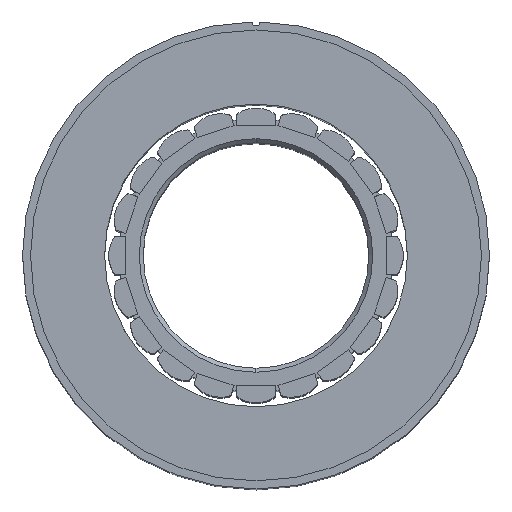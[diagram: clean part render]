
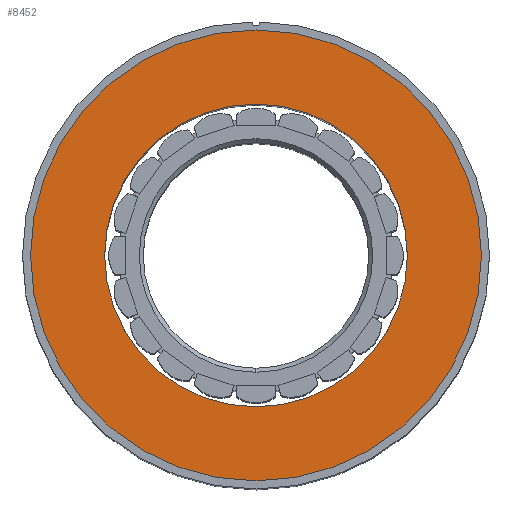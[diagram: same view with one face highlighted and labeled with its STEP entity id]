
A CAD part, top view. The second image highlights one B-rep face of the part: STEP entity #8452.
In plain terms, the highlighted planar face has unit normal (0, 0, 1).
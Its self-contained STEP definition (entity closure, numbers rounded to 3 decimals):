
#49 = FACE_OUTER_BOUND ( 'NONE', #9226, .T. ) ;
#714 = CARTESIAN_POINT ( 'NONE',  ( -18.8, 0., 82. ) ) ;
#780 = EDGE_CURVE ( 'NONE', #12419, #4853, #4247, .T. ) ;
#826 = ORIENTED_EDGE ( 'NONE', *, *, #780, .T. ) ;
#1058 = DIRECTION ( 'NONE',  ( 0., 0., 1. ) ) ;
#1116 = DIRECTION ( 'NONE',  ( 0., 0., 1. ) ) ;
#1306 = DIRECTION ( 'NONE',  ( 1., 0., 0. ) ) ;
#1427 = VERTEX_POINT ( 'NONE', #714 ) ;
#1672 = DIRECTION ( 'NONE',  ( 1., 0., 0. ) ) ;
#2046 = AXIS2_PLACEMENT_3D ( 'NONE', #6837, #5783, #7107 ) ;
#2655 = CARTESIAN_POINT ( 'NONE',  ( 0., 0., 82. ) ) ;
#2848 = EDGE_CURVE ( 'NONE', #11410, #1427, #9466, .T. ) ;
#2887 = CIRCLE ( 'NONE', #2046, 18.8 ) ;
#3012 = AXIS2_PLACEMENT_3D ( 'NONE', #2655, #9525, #1672 ) ;
#3134 = CARTESIAN_POINT ( 'NONE',  ( -28., 0., 82. ) ) ;
#3655 = CIRCLE ( 'NONE', #8066, 28. ) ;
#3809 = AXIS2_PLACEMENT_3D ( 'NONE', #10024, #1058, #5028 ) ;
#4247 = CIRCLE ( 'NONE', #3012, 28. ) ;
#4329 = DIRECTION ( 'NONE',  ( 1., 0., 0. ) ) ;
#4853 = VERTEX_POINT ( 'NONE', #3134 ) ;
#5028 = DIRECTION ( 'NONE',  ( 1., 0., 0. ) ) ;
#5159 = PLANE ( 'NONE',  #9740 ) ;
#5316 = CARTESIAN_POINT ( 'NONE',  ( 0., 0., 82. ) ) ;
#5390 = EDGE_CURVE ( 'NONE', #4853, #12419, #3655, .T. ) ;
#5783 = DIRECTION ( 'NONE',  ( 0., 0., 1. ) ) ;
#6837 = CARTESIAN_POINT ( 'NONE',  ( 0., 0., 82. ) ) ;
#7063 = EDGE_LOOP ( 'NONE', ( #11224, #8425 ) ) ;
#7107 = DIRECTION ( 'NONE',  ( 1., 0., 0. ) ) ;
#7136 = CARTESIAN_POINT ( 'NONE',  ( 28., 0., 82. ) ) ;
#8066 = AXIS2_PLACEMENT_3D ( 'NONE', #5316, #9319, #4329 ) ;
#8178 = CARTESIAN_POINT ( 'NONE',  ( 0., 0., 82. ) ) ;
#8425 = ORIENTED_EDGE ( 'NONE', *, *, #2848, .F. ) ;
#8452 = ADVANCED_FACE ( 'NONE', ( #49, #9099 ), #5159, .T. ) ;
#9099 = FACE_BOUND ( 'NONE', #7063, .T. ) ;
#9226 = EDGE_LOOP ( 'NONE', ( #11831, #826 ) ) ;
#9319 = DIRECTION ( 'NONE',  ( 0., 0., 1. ) ) ;
#9466 = CIRCLE ( 'NONE', #3809, 18.8 ) ;
#9525 = DIRECTION ( 'NONE',  ( 0., 0., 1. ) ) ;
#9740 = AXIS2_PLACEMENT_3D ( 'NONE', #8178, #1116, #1306 ) ;
#10024 = CARTESIAN_POINT ( 'NONE',  ( 0., 0., 82. ) ) ;
#10470 = CARTESIAN_POINT ( 'NONE',  ( 18.8, 0., 82. ) ) ;
#10663 = EDGE_CURVE ( 'NONE', #1427, #11410, #2887, .T. ) ;
#11224 = ORIENTED_EDGE ( 'NONE', *, *, #10663, .F. ) ;
#11410 = VERTEX_POINT ( 'NONE', #10470 ) ;
#11831 = ORIENTED_EDGE ( 'NONE', *, *, #5390, .T. ) ;
#12419 = VERTEX_POINT ( 'NONE', #7136 ) ;
